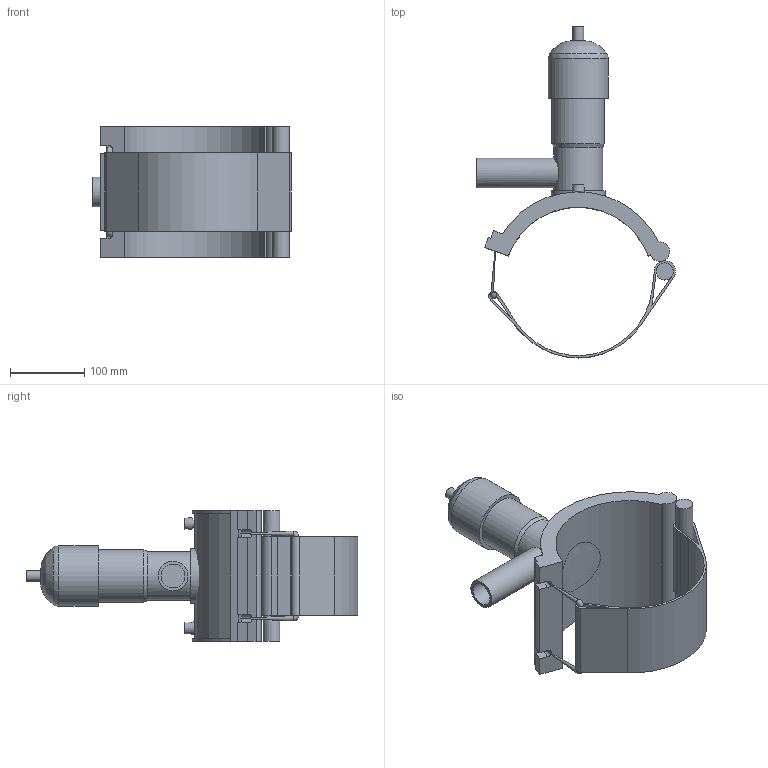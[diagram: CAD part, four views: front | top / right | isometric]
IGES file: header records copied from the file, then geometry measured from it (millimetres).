
Global section: file name: 495404200040.ipt; native system: Autodesk Inventor 2015; preprocessor: unknown; author: KIM; date: 20171106.094307; units: millimetre
Bounding box: 267.95 x 447 x 176 mm (x, y, z)
Volume: 2114102.8 mm3; surface area: 331817.4 mm2
Topology: 3 solids, 4 shells, 81 faces, 196 edges, 130 vertices
Faces by surface type: plane 45, cylinder 20, revolution 13, cone 3
Full cylindrical faces by diameter (mm): 4 x2, 6.8 x2, 14.64 x1, 22.769 x1, 40 x1, 65.88 x1, 70.76 x1, 73.2 x1, 81.333 x1
